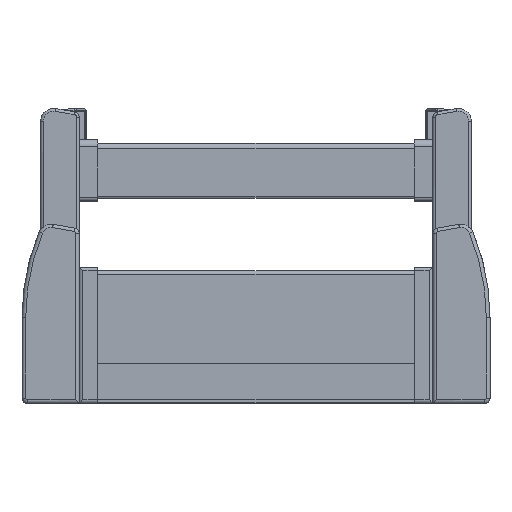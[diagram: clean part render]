
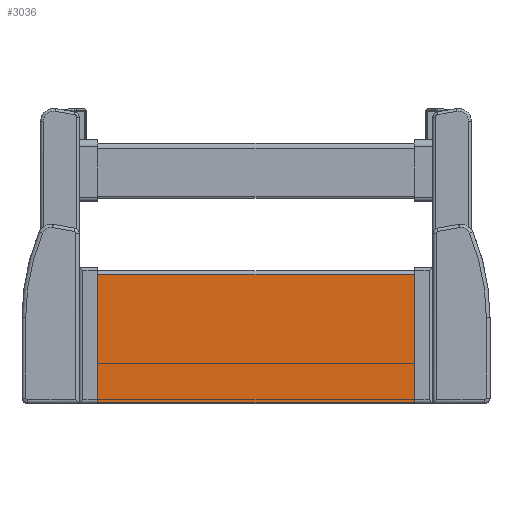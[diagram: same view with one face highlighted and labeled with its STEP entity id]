
A CAD part, top view. The second image highlights one B-rep face of the part: STEP entity #3036.
In plain terms, the highlighted planar face has unit normal (0, 0, 1).
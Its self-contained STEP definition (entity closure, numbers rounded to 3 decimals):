
#1060 = CARTESIAN_POINT ( 'NONE',  ( 159.556, -23., 1.4 ) ) ;
#1061 = LINE ( 'NONE', #1060, #1120 ) ;
#1062 = DIRECTION ( 'NONE',  ( 0., 1., 0. ) ) ;
#1063 = VECTOR ( 'NONE', #1062, 1000. ) ;
#1064 = CARTESIAN_POINT ( 'NONE',  ( -85.8, -92.5, 1.4 ) ) ;
#1065 = LINE ( 'NONE', #1064, #1063 ) ;
#1071 = CARTESIAN_POINT ( 'NONE',  ( -85.8, -23., 1.4 ) ) ;
#1119 = DIRECTION ( 'NONE',  ( -1., 0., 0. ) ) ;
#1120 = VECTOR ( 'NONE', #1119, 1000. ) ;
#2098 = CARTESIAN_POINT ( 'NONE',  ( 85.8, -23., 1.4 ) ) ;
#2157 = CARTESIAN_POINT ( 'NONE',  ( 85.8, -92.5, 1.4 ) ) ;
#2158 = DIRECTION ( 'NONE',  ( 0., 1., 0. ) ) ;
#2159 = VECTOR ( 'NONE', #2158, 1000. ) ;
#2160 = CARTESIAN_POINT ( 'NONE',  ( 85.8, -92.5, 1.4 ) ) ;
#2161 = LINE ( 'NONE', #2160, #2159 ) ;
#3023 = ORIENTED_EDGE ( 'NONE', *, *, #4734, .T. ) ;
#3025 = ORIENTED_EDGE ( 'NONE', *, *, #3041, .F. ) ;
#3026 = ORIENTED_EDGE ( 'NONE', *, *, #6527, .T. ) ;
#3036 = ADVANCED_FACE ( 'NONE', ( #5132 ), #5131, .F. ) ;
#3037 = EDGE_LOOP ( 'NONE', ( #3025, #3026, #3023, #4727 ) ) ;
#3041 = EDGE_CURVE ( 'NONE', #6528, #3042, #5125, .T. ) ;
#3042 = VERTEX_POINT ( 'NONE', #5119 ) ;
#4724 = VERTEX_POINT ( 'NONE', #1071 ) ;
#4727 = ORIENTED_EDGE ( 'NONE', *, *, #4728, .F. ) ;
#4728 = EDGE_CURVE ( 'NONE', #3042, #4724, #1065, .T. ) ;
#4734 = EDGE_CURVE ( 'NONE', #6460, #4724, #1061, .T. ) ;
#5119 = CARTESIAN_POINT ( 'NONE',  ( -85.8, -92.5, 1.4 ) ) ;
#5122 = DIRECTION ( 'NONE',  ( -1., 0., 0. ) ) ;
#5123 = VECTOR ( 'NONE', #5122, 1000. ) ;
#5124 = CARTESIAN_POINT ( 'NONE',  ( 159.556, -92.5, 1.4 ) ) ;
#5125 = LINE ( 'NONE', #5124, #5123 ) ;
#5126 = DIRECTION ( 'NONE',  ( 0., 1., 0. ) ) ;
#5127 = DIRECTION ( 'NONE',  ( 0., 0., -1. ) ) ;
#5128 = CARTESIAN_POINT ( 'NONE',  ( 159.556, -92.5, 1.4 ) ) ;
#5129 = AXIS2_PLACEMENT_3D ( 'NONE', #5128, #5127, #5126 ) ;
#5131 = PLANE ( 'NONE',  #5129 ) ;
#5132 = FACE_OUTER_BOUND ( 'NONE', #3037, .T. ) ;
#6460 = VERTEX_POINT ( 'NONE', #2098 ) ;
#6527 = EDGE_CURVE ( 'NONE', #6528, #6460, #2161, .T. ) ;
#6528 = VERTEX_POINT ( 'NONE', #2157 ) ;
